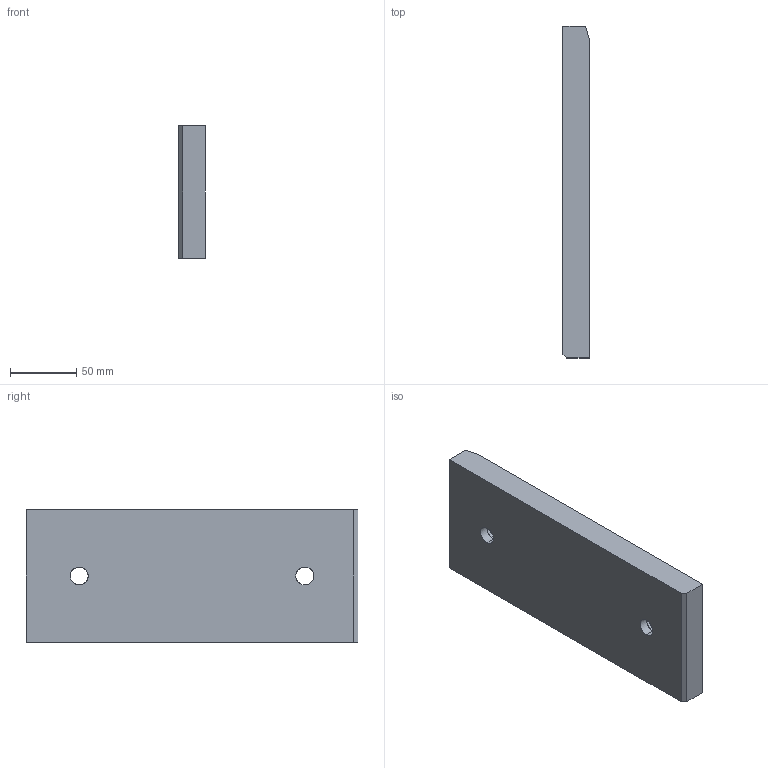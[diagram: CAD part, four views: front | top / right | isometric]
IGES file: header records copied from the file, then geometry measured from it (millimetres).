
Start section: START RECORD GO HERE.
Global section: file name: A915-100X250.igs; native system: DASSAULT SYSTEMES CATIA V5 R20 - www.3ds.com; preprocessor: CATIA Version 5 Release 20 ; author: Utente; organization: NB04-ASUS; date: 20200407.211116; units: millimetre
Bounding box: 20 x 250 x 100 mm (x, y, z)
Surface area: 65056.1 mm2 (no closed solid volume)
Topology: 0 solids, 0 shells, 23 faces, 106 edges, 106 vertices
Faces by surface type: revolution 13, extrusion 10
